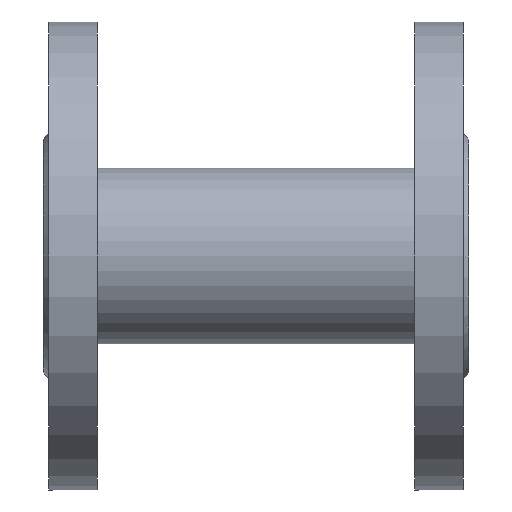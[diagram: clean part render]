
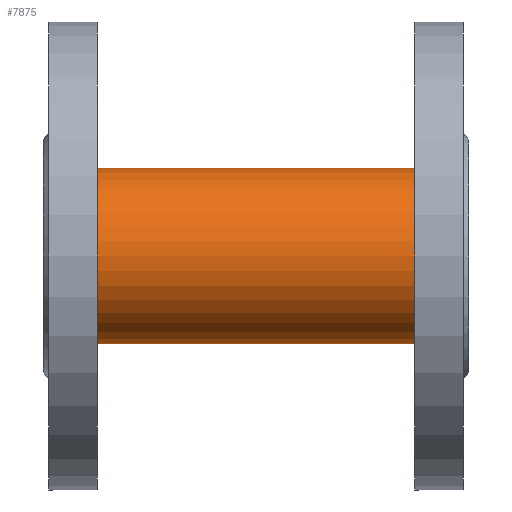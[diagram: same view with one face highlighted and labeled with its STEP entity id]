
A CAD part, front view. The second image highlights one B-rep face of the part: STEP entity #7875.
In plain terms, the highlighted cylindrical face has radius 31 mm (diameter 62 mm), a full revolution.
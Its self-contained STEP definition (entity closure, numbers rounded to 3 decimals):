
#1425=LINE('',#36155,#3405);
#1426=LINE('',#36161,#3406);
#3405=VECTOR('',#29541,1.);
#3406=VECTOR('',#29546,1.);
#5624=ELLIPSE('',#27307,43.841,31.);
#5625=ELLIPSE('',#27308,43.841,31.);
#5626=ELLIPSE('',#27309,43.841,31.);
#5627=ELLIPSE('',#27310,43.841,31.);
#7422=CYLINDRICAL_SURFACE('',#27313,31.);
#7875=ADVANCED_FACE('',(#10308,#10309,#10310),#7422,.T.);
#10308=FACE_BOUND('',#11135,.T.);
#10309=FACE_BOUND('',#11136,.T.);
#10310=FACE_BOUND('',#11137,.T.);
#11135=EDGE_LOOP('',(#13187,#13188,#13189,#13190,#13191,#13192));
#11136=EDGE_LOOP('',(#13193));
#11137=EDGE_LOOP('',(#13194));
#13187=ORIENTED_EDGE('',*,*,#22823,.T.);
#13188=ORIENTED_EDGE('',*,*,#22824,.T.);
#13189=ORIENTED_EDGE('',*,*,#22825,.T.);
#13190=ORIENTED_EDGE('',*,*,#22826,.T.);
#13191=ORIENTED_EDGE('',*,*,#22827,.T.);
#13192=ORIENTED_EDGE('',*,*,#22828,.T.);
#13193=ORIENTED_EDGE('',*,*,#22829,.F.);
#13194=ORIENTED_EDGE('',*,*,#22830,.F.);
#20377=VERTEX_POINT('',#36151);
#20378=VERTEX_POINT('',#36152);
#20379=VERTEX_POINT('',#36154);
#20380=VERTEX_POINT('',#36156);
#20381=VERTEX_POINT('',#36158);
#20382=VERTEX_POINT('',#36160);
#20383=VERTEX_POINT('',#36163);
#20384=VERTEX_POINT('',#36165);
#22823=EDGE_CURVE('',#20377,#20378,#5624,.T.);
#22824=EDGE_CURVE('',#20378,#20379,#5625,.T.);
#22825=EDGE_CURVE('',#20379,#20380,#1425,.T.);
#22826=EDGE_CURVE('',#20380,#20381,#5626,.T.);
#22827=EDGE_CURVE('',#20381,#20382,#5627,.T.);
#22828=EDGE_CURVE('',#20382,#20377,#1426,.T.);
#22829=EDGE_CURVE('',#20383,#20383,#26425,.T.);
#22830=EDGE_CURVE('',#20384,#20384,#26426,.T.);
#26425=CIRCLE('',#27311,31.);
#26426=CIRCLE('',#27312,31.);
#27307=AXIS2_PLACEMENT_3D('',#36150,#29537,#29538);
#27308=AXIS2_PLACEMENT_3D('',#36153,#29539,#29540);
#27309=AXIS2_PLACEMENT_3D('',#36157,#29542,#29543);
#27310=AXIS2_PLACEMENT_3D('',#36159,#29544,#29545);
#27311=AXIS2_PLACEMENT_3D('',#36162,#29547,#29548);
#27312=AXIS2_PLACEMENT_3D('',#36164,#29549,#29550);
#27313=AXIS2_PLACEMENT_3D('',#36166,#29551,#29552);
#29537=DIRECTION('',(-0.707,-0.707,0.));
#29538=DIRECTION('',(-0.707,0.707,0.));
#29539=DIRECTION('',(-0.707,-0.707,0.));
#29540=DIRECTION('',(-0.707,0.707,0.));
#29541=DIRECTION('',(1.,0.,0.));
#29542=DIRECTION('',(0.707,-0.707,0.));
#29543=DIRECTION('',(-0.707,-0.707,0.));
#29544=DIRECTION('',(0.707,-0.707,0.));
#29545=DIRECTION('',(-0.707,-0.707,0.));
#29546=DIRECTION('',(-1.,0.,0.));
#29547=DIRECTION('',(1.,0.,0.));
#29548=DIRECTION('',(0.,0.,1.));
#29549=DIRECTION('',(-1.,0.,0.));
#29550=DIRECTION('',(0.,0.,-1.));
#29551=DIRECTION('',(-1.,0.,0.));
#29552=DIRECTION('',(0.,0.,1.));
#36150=CARTESIAN_POINT('',(50.,-27.49,-29.5));
#36151=CARTESIAN_POINT('',(20.,2.51,-21.69));
#36152=CARTESIAN_POINT('',(19.,3.51,-29.5));
#36153=CARTESIAN_POINT('',(50.,-27.49,-29.5));
#36154=CARTESIAN_POINT('',(20.,2.51,-37.31));
#36155=CARTESIAN_POINT('',(20.,2.51,-37.31));
#36156=CARTESIAN_POINT('',(70.,2.51,-37.31));
#36157=CARTESIAN_POINT('',(40.,-27.49,-29.5));
#36158=CARTESIAN_POINT('',(71.,3.51,-29.5));
#36159=CARTESIAN_POINT('',(40.,-27.49,-29.5));
#36160=CARTESIAN_POINT('',(70.,2.51,-21.69));
#36161=CARTESIAN_POINT('',(70.,2.51,-21.69));
#36162=CARTESIAN_POINT('',(101.,-27.49,-29.5));
#36163=CARTESIAN_POINT('',(101.,-27.49,1.5));
#36164=CARTESIAN_POINT('',(-11.,-27.49,-29.5));
#36165=CARTESIAN_POINT('',(-11.,-27.49,-60.5));
#36166=CARTESIAN_POINT('',(76.,-27.49,-29.5));
